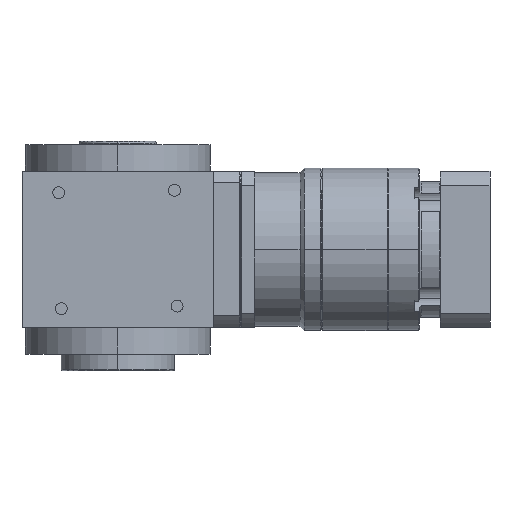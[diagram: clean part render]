
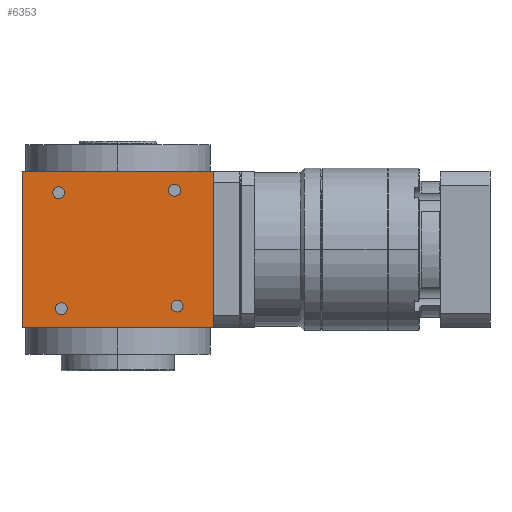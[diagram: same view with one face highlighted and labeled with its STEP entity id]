
A CAD part, left-side view. The second image highlights one B-rep face of the part: STEP entity #6353.
In plain terms, the highlighted planar face has unit normal (-1, 0, 0).
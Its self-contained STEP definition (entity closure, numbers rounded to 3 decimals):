
#65 = EDGE_CURVE ( 'NONE', #6363, #7077, #5457, .T. ) ;
#149 = EDGE_CURVE ( 'NONE', #1863, #4656, #7413, .T. ) ;
#221 = AXIS2_PLACEMENT_3D ( 'NONE', #5616, #6142, #2549 ) ;
#297 = ORIENTED_EDGE ( 'NONE', *, *, #5578, .T. ) ;
#384 = DIRECTION ( 'NONE',  ( 1., 0., 0. ) ) ;
#578 = AXIS2_PLACEMENT_3D ( 'NONE', #6023, #1269, #2911 ) ;
#605 = VECTOR ( 'NONE', #7448, 1000. ) ;
#652 = VERTEX_POINT ( 'NONE', #1502 ) ;
#741 = DIRECTION ( 'NONE',  ( 1., 0., 0. ) ) ;
#788 = EDGE_CURVE ( 'NONE', #3511, #2494, #6274, .T. ) ;
#808 = VECTOR ( 'NONE', #1356, 1000. ) ;
#824 = ORIENTED_EDGE ( 'NONE', *, *, #6790, .T. ) ;
#858 = CARTESIAN_POINT ( 'NONE',  ( -55., -55., -45. ) ) ;
#944 = CARTESIAN_POINT ( 'NONE',  ( -55., -32.5, 34. ) ) ;
#949 = EDGE_LOOP ( 'NONE', ( #297, #6641 ) ) ;
#950 = DIRECTION ( 'NONE',  ( 0., -1., 0. ) ) ;
#1082 = CARTESIAN_POINT ( 'NONE',  ( -55., -30.6, -32.5 ) ) ;
#1138 = AXIS2_PLACEMENT_3D ( 'NONE', #944, #384, #1667 ) ;
#1160 = ORIENTED_EDGE ( 'NONE', *, *, #2992, .T. ) ;
#1261 = CIRCLE ( 'NONE', #1138, 3.4 ) ;
#1269 = DIRECTION ( 'NONE',  ( 1., 0., 0. ) ) ;
#1307 = EDGE_CURVE ( 'NONE', #7829, #3419, #3551, .T. ) ;
#1356 = DIRECTION ( 'NONE',  ( 0., -1., 0. ) ) ;
#1363 = AXIS2_PLACEMENT_3D ( 'NONE', #6819, #741, #2066 ) ;
#1429 = EDGE_LOOP ( 'NONE', ( #2743, #824, #1807, #3424 ) ) ;
#1438 = LINE ( 'NONE', #6949, #808 ) ;
#1502 = CARTESIAN_POINT ( 'NONE',  ( -55., 55., 45. ) ) ;
#1534 = ORIENTED_EDGE ( 'NONE', *, *, #2391, .T. ) ;
#1545 = EDGE_CURVE ( 'NONE', #7077, #6363, #6119, .T. ) ;
#1595 = CARTESIAN_POINT ( 'NONE',  ( -55., 55., -45. ) ) ;
#1667 = DIRECTION ( 'NONE',  ( 0., -1., 0. ) ) ;
#1728 = CARTESIAN_POINT ( 'NONE',  ( -55., 37.4, 32.5 ) ) ;
#1807 = ORIENTED_EDGE ( 'NONE', *, *, #788, .T. ) ;
#1863 = VERTEX_POINT ( 'NONE', #1728 ) ;
#1874 = AXIS2_PLACEMENT_3D ( 'NONE', #2330, #3555, #6004 ) ;
#1939 = CARTESIAN_POINT ( 'NONE',  ( -55., -32.5, 34. ) ) ;
#2051 = VERTEX_POINT ( 'NONE', #3827 ) ;
#2066 = DIRECTION ( 'NONE',  ( 0., -1., 0. ) ) ;
#2070 = CARTESIAN_POINT ( 'NONE',  ( -55., -55., 45. ) ) ;
#2139 = DIRECTION ( 'NONE',  ( 0., -1., 0. ) ) ;
#2156 = ORIENTED_EDGE ( 'NONE', *, *, #1545, .T. ) ;
#2178 = DIRECTION ( 'NONE',  ( 0., -1., 0. ) ) ;
#2277 = AXIS2_PLACEMENT_3D ( 'NONE', #6456, #7712, #6495 ) ;
#2330 = CARTESIAN_POINT ( 'NONE',  ( -55., 32.5, -34. ) ) ;
#2391 = EDGE_CURVE ( 'NONE', #6060, #2051, #3955, .T. ) ;
#2494 = VERTEX_POINT ( 'NONE', #2070 ) ;
#2549 = DIRECTION ( 'NONE',  ( 0., -1., 0. ) ) ;
#2675 = DIRECTION ( 'NONE',  ( -1., 0., 0. ) ) ;
#2743 = ORIENTED_EDGE ( 'NONE', *, *, #6650, .T. ) ;
#2813 = EDGE_CURVE ( 'NONE', #2051, #6060, #4858, .T. ) ;
#2867 = LINE ( 'NONE', #6090, #3102 ) ;
#2911 = DIRECTION ( 'NONE',  ( 0., -1., 0. ) ) ;
#2992 = EDGE_CURVE ( 'NONE', #3419, #7829, #1261, .T. ) ;
#3019 = AXIS2_PLACEMENT_3D ( 'NONE', #1939, #6901, #2139 ) ;
#3102 = VECTOR ( 'NONE', #7804, 1000. ) ;
#3208 = CARTESIAN_POINT ( 'NONE',  ( -55., -55., -45. ) ) ;
#3246 = VECTOR ( 'NONE', #5571, 1000. ) ;
#3368 = FACE_BOUND ( 'NONE', #7495, .T. ) ;
#3419 = VERTEX_POINT ( 'NONE', #5047 ) ;
#3424 = ORIENTED_EDGE ( 'NONE', *, *, #5242, .T. ) ;
#3511 = VERTEX_POINT ( 'NONE', #858 ) ;
#3551 = CIRCLE ( 'NONE', #3019, 3.4 ) ;
#3555 = DIRECTION ( 'NONE',  ( 1., 0., 0. ) ) ;
#3629 = ORIENTED_EDGE ( 'NONE', *, *, #65, .T. ) ;
#3827 = CARTESIAN_POINT ( 'NONE',  ( -55., -37.4, -32.5 ) ) ;
#3955 = CIRCLE ( 'NONE', #221, 3.4 ) ;
#4371 = CARTESIAN_POINT ( 'NONE',  ( -55., 55., -45. ) ) ;
#4374 = CARTESIAN_POINT ( 'NONE',  ( -55., 30.6, 32.5 ) ) ;
#4548 = FACE_BOUND ( 'NONE', #949, .T. ) ;
#4583 = FACE_BOUND ( 'NONE', #6994, .T. ) ;
#4656 = VERTEX_POINT ( 'NONE', #4374 ) ;
#4701 = FACE_OUTER_BOUND ( 'NONE', #1429, .T. ) ;
#4736 = ORIENTED_EDGE ( 'NONE', *, *, #2813, .T. ) ;
#4858 = CIRCLE ( 'NONE', #2277, 3.4 ) ;
#4991 = CARTESIAN_POINT ( 'NONE',  ( -55., -35.9, 34. ) ) ;
#5047 = CARTESIAN_POINT ( 'NONE',  ( -55., -29.1, 34. ) ) ;
#5185 = PLANE ( 'NONE',  #6463 ) ;
#5242 = EDGE_CURVE ( 'NONE', #2494, #652, #2867, .T. ) ;
#5457 = CIRCLE ( 'NONE', #578, 3.4 ) ;
#5571 = DIRECTION ( 'NONE',  ( 0., 0., -1. ) ) ;
#5578 = EDGE_CURVE ( 'NONE', #4656, #1863, #7892, .T. ) ;
#5616 = CARTESIAN_POINT ( 'NONE',  ( -55., -34., -32.5 ) ) ;
#5713 = CARTESIAN_POINT ( 'NONE',  ( -55., 29.1, -34. ) ) ;
#6004 = DIRECTION ( 'NONE',  ( 0., -1., 0. ) ) ;
#6023 = CARTESIAN_POINT ( 'NONE',  ( -55., 32.5, -34. ) ) ;
#6060 = VERTEX_POINT ( 'NONE', #1082 ) ;
#6070 = AXIS2_PLACEMENT_3D ( 'NONE', #7062, #6459, #2178 ) ;
#6090 = CARTESIAN_POINT ( 'NONE',  ( -55., 55., 45. ) ) ;
#6119 = CIRCLE ( 'NONE', #1874, 3.4 ) ;
#6142 = DIRECTION ( 'NONE',  ( 1., 0., 0. ) ) ;
#6274 = LINE ( 'NONE', #3208, #605 ) ;
#6353 = ADVANCED_FACE ( 'NONE', ( #4701, #6518, #4583, #3368, #4548 ), #5185, .T. ) ;
#6363 = VERTEX_POINT ( 'NONE', #6997 ) ;
#6403 = VERTEX_POINT ( 'NONE', #1595 ) ;
#6456 = CARTESIAN_POINT ( 'NONE',  ( -55., -34., -32.5 ) ) ;
#6459 = DIRECTION ( 'NONE',  ( 1., 0., 0. ) ) ;
#6463 = AXIS2_PLACEMENT_3D ( 'NONE', #7650, #2675, #950 ) ;
#6495 = DIRECTION ( 'NONE',  ( 0., -1., 0. ) ) ;
#6518 = FACE_BOUND ( 'NONE', #6688, .T. ) ;
#6641 = ORIENTED_EDGE ( 'NONE', *, *, #149, .T. ) ;
#6650 = EDGE_CURVE ( 'NONE', #652, #6403, #6947, .T. ) ;
#6688 = EDGE_LOOP ( 'NONE', ( #2156, #3629 ) ) ;
#6790 = EDGE_CURVE ( 'NONE', #6403, #3511, #1438, .T. ) ;
#6819 = CARTESIAN_POINT ( 'NONE',  ( -55., 34., 32.5 ) ) ;
#6901 = DIRECTION ( 'NONE',  ( 1., 0., 0. ) ) ;
#6947 = LINE ( 'NONE', #4371, #3246 ) ;
#6949 = CARTESIAN_POINT ( 'NONE',  ( -55., 55., -45. ) ) ;
#6994 = EDGE_LOOP ( 'NONE', ( #4736, #1534 ) ) ;
#6997 = CARTESIAN_POINT ( 'NONE',  ( -55., 35.9, -34. ) ) ;
#7062 = CARTESIAN_POINT ( 'NONE',  ( -55., 34., 32.5 ) ) ;
#7077 = VERTEX_POINT ( 'NONE', #5713 ) ;
#7413 = CIRCLE ( 'NONE', #1363, 3.4 ) ;
#7448 = DIRECTION ( 'NONE',  ( 0., 0., 1. ) ) ;
#7495 = EDGE_LOOP ( 'NONE', ( #7933, #1160 ) ) ;
#7650 = CARTESIAN_POINT ( 'NONE',  ( -55., 55., -45. ) ) ;
#7712 = DIRECTION ( 'NONE',  ( 1., 0., 0. ) ) ;
#7804 = DIRECTION ( 'NONE',  ( 0., 1., 0. ) ) ;
#7829 = VERTEX_POINT ( 'NONE', #4991 ) ;
#7892 = CIRCLE ( 'NONE', #6070, 3.4 ) ;
#7933 = ORIENTED_EDGE ( 'NONE', *, *, #1307, .T. ) ;
